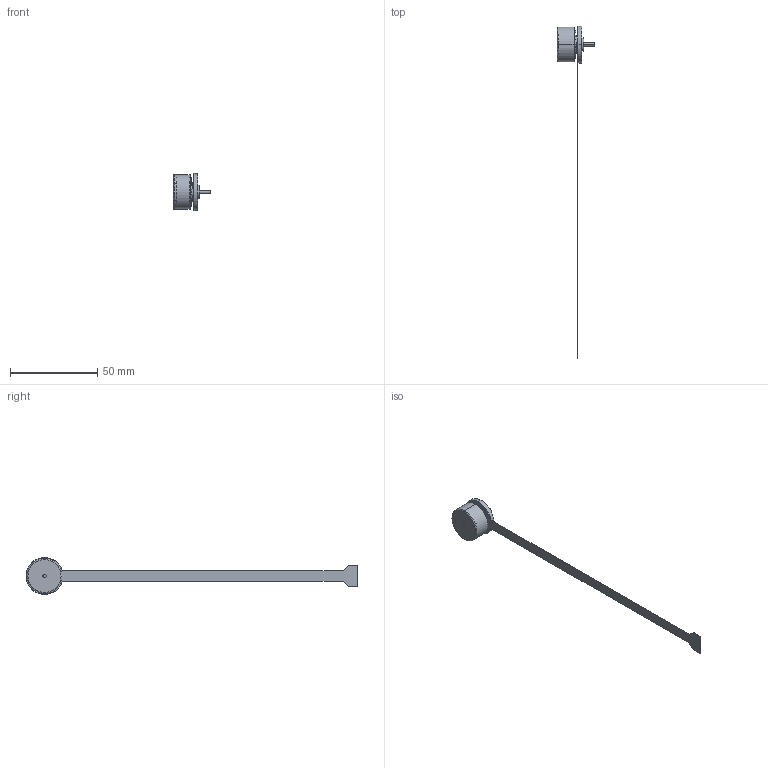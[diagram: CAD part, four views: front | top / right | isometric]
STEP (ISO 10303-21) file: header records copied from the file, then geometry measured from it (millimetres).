
FILE_DESCRIPTION((''),'2;1');
FILE_NAME('3_1_02_020_0001_ASM','2018-10-13T',('liuhui'),(''),'CREO PARAMETRIC BY PTC INC, 2015200','CREO PARAMETRIC BY PTC INC, 2015200','');
FILE_SCHEMA(('CONFIG_CONTROL_DESIGN'));
Length unit declared in the file: millimetre
Products named in the file (18): 1_1_02_EB201-500; 1_1_18_PCB20-500; 0000148098; 1_2_19_HA20-500_ASM; 1_1_27_SK201-500; 1_1_15_PL201-500; 1_1_15_PL201-501; 0000179632; 2_2_02_ST20-500_ASM; 1_2_04_069200; 1_3_04_QT-393; 1_3_03_QT-392; 1_1_06_EB203-500; 1_1_10_SF20-500; 1_1_11_MG20-500; 0000148099; 2_3_02_RT20-500_ASM; 3_1_02_020_0001_ASM
Assembly tree (18 placements, depth 3):
  3_1_02_020_0001_ASM
    1_1_02_EB201-500
    1_2_19_HA20-500_ASM
      1_1_18_PCB20-500
      0000148098
    2_2_02_ST20-500_ASM
      1_1_27_SK201-500
      1_1_15_PL201-500
      1_1_15_PL201-501
      0000179632
    1_2_04_069200  x2
    1_3_04_QT-393
    1_3_03_QT-392
    2_3_02_RT20-500_ASM
      1_1_06_EB203-500
      1_1_10_SF20-500
      1_1_11_MG20-500
      0000148099
Bounding box: 21.2 x 190.1 x 21.2 mm (x, y, z)
Volume: 3152.8 mm3; surface area: 10708.3 mm2
Topology: 12 solids, 15 shells, 2199 faces, 6200 edges, 4124 vertices
Faces by surface type: plane 1850, cylinder 311, torus 28, cone 6, bspline 4
Entity records: 49895 total; most frequent: CARTESIAN_POINT 10194, ORIENTED_EDGE 8360, DIRECTION 8010, EDGE_CURVE 4186, VECTOR 3394, LINE 3394, VERTEX_POINT 2784, AXIS2_PLACEMENT_3D 2308
